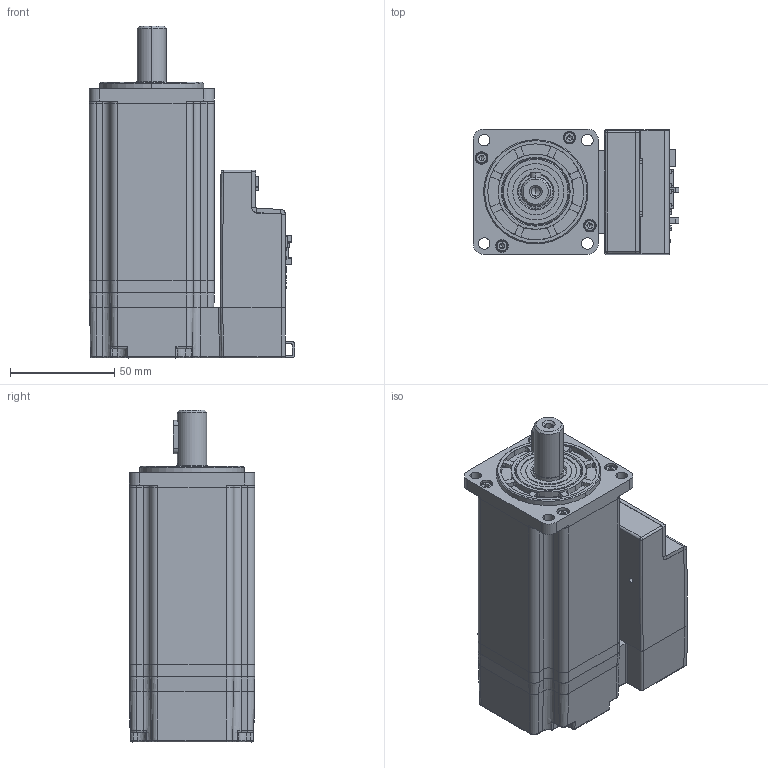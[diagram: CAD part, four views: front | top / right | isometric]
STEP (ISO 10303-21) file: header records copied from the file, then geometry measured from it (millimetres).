
FILE_DESCRIPTION (( 'STEP AP214' ), '1' );
FILE_NAME ('MD60(200W) with brake.STEP', '2021-01-05T19:53:41', ( '' ), ( '' ), 'SwSTEP 2.0', 'SolidWorks 2020', '' );
FILE_SCHEMA (( 'AUTOMOTIVE_DESIGN' ));
Length unit declared in the file: inch
Products named in the file (63): MD60(200W) with brake; _1_0001; HEXAGON_SOCKET_HEAD_CAP_S-13115; PC_7MM_46_1; PUDP-16V-S_13_1; HEXAGON_SOCKET_HEAD_CAP_S-37193; _1_-2-S0001; MD60PCB2_50_1; XJ_7_1; _1-20560001; _-473650001; HEXAGON_SOCKET_HEAD_CAP_S-19590; CJTA2008WV-4P_42_1_1; MD60HT_2019_01_08_53_1; HEXAGON_SOCKET_HEAD_CAP_S-24190; _2-S-77500001; HEXAGON_SOCKET_HEAD_CAP_S-56590; ZLH-100V330UF_34_1; MD60_020__ASM; HEXAGON_SOCKET_HEAD_CAP_S-29925; _2-S-104520001; 200W_ASM; B04B-ZESK-D_16_1; _2-S-345140001; SPRING_LOCK_WASHERS--NORM-15018; TIM_PCB1_42_1; PCA_ASM_50_ASM_1_ASM; _-417350001; HEXAGON_SOCKET_HEAD_CAP_S-18743; B12B-PUDSS-1_16_1; COVER_ASM_37_ASM_1_ASM; _1-SOL000; HEXAGON_SOCKET_HEAD_CAP_S-52796; _1_-1-0001; CJTA2008WV-4P_42_2_1; 0001_ASM_187_ASM_1_ASM; _-252360001; _1-SO0001; _2-S-584320001; 0226-22XX_35_1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
Assembly tree (64 placements, depth 9):
  MD60(200W) with brake
    REAR_COVER_ASM
      7_1_03_2550_SMC60S-0020-30MBK-3_ASM
        200W_ASM
          _2-S0001
          _1-20560001
          _1-SOL000
          SPRING_LOCK_WASHERS--NORMA-7679
          _2-S-77500001
          _1-SO0001
          _2-S-96050001
          _2-S-104520001
          HEXAGON_SOCKET_HEAD_CAP_S-12347
          HEXAGON_SOCKET_HEAD_CAP_S-13115
          SPRING_LOCK_WASHERS--NORM-15018
          _1-SOLI00
          _1_-2-S0001
          HEXAGON_SOCKET_HEAD_CAP_S-18743
          O-2-SOLI00
          HEXAGON_SOCKET_HEAD_CAP_S-19590
          _1_-1-0001
          _1-SOLID0
          HEXAGON_SOCKET_HEAD_CAP_S-24190
          _-252360001
          _2-S-298480001
          HEXAGON_SOCKET_HEAD_CAP_S-29925
          _20001
          _1_0001
          _2-S-345140001
          _2-S-363470001
          HEXAGON_SOCKET_HEAD_CAP_S-37193
          _-417350001
          _1-SO0002
          _-473650001
          HEXAGON_SOCKET_HEAD_CAP_S-52796
          _2-S0002
          HEXAGON_SOCKET_HEAD_CAP_S-56590
          _2-S-584320001
          _1_-10001
      MD60_020__ASM
        MD60_020__ASM_1_ASM
          0001_ASM_187_ASM_1_ASM
            REAR_COVER_ASM_71_ASM_1_ASM
              PC_7MM_46_1
              TIM_PCB1_42_1
              PCA_ASM_50_ASM_1_ASM
                PCA1_ASM_50_ASM_1_ASM
                  PCB1_51_1
                  MD60PCB2_50_1
                  B12B-PUDSS-1_16_1
                CJTA2008WV-4P_42_ASM_1_ASM
                  CJTA2008WV-4P_42_1_1
                  CJTA2008WV-4P_42_2_1
                ZLH-100V330UF_34_1
                0226-22XX_35_1
                19717_34_1
                B04B-ZESK-D_16_1  x2
                B16B-PUDSS-1_13_1
                PUDP-16V-S_13_1
              COVER_ASM_37_ASM_1_ASM
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Bounding box: 98.63 x 60.06 x 159.2 mm (x, y, z)
Volume: 304343.3 mm3; surface area: 195356.8 mm2
Topology: 53 solids, 53 shells, 4057 faces, 10373 edges, 6696 vertices
Faces by surface type: plane 2650, cylinder 1001, bspline 211, cone 195
Entity records: 138215 total; most frequent: CARTESIAN_POINT 39617, ORIENTED_EDGE 20278, DIRECTION 18915, EDGE_CURVE 10139, LINE 7217, VECTOR 7217, VERTEX_POINT 6582, AXIS2_PLACEMENT_3D 5849
